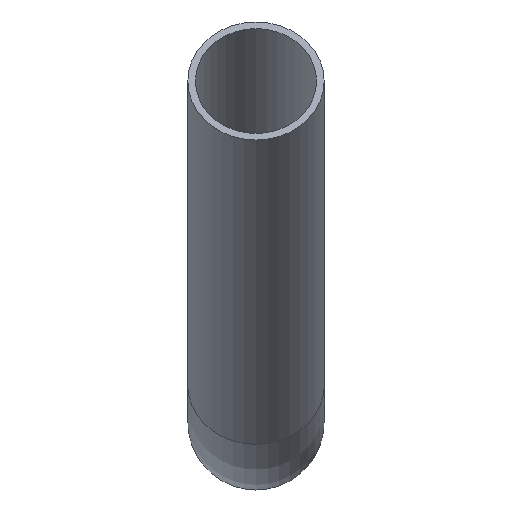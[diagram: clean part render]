
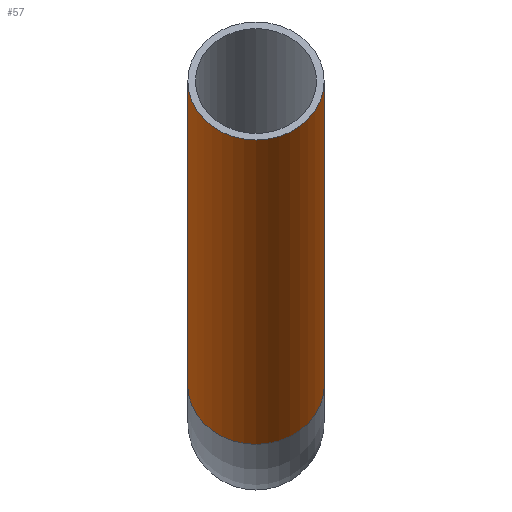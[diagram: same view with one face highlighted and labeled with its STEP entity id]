
A CAD part, front view. The second image highlights one B-rep face of the part: STEP entity #57.
In plain terms, the highlighted cylindrical face has radius 9 mm (diameter 18 mm), a full revolution.
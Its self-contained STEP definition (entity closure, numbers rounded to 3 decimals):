
#57=ADVANCED_FACE('',(#97,#99),#101,.T.);
#97=FACE_OUTER_BOUND('',#98,.T.);
#98=EDGE_LOOP('',(#141));
#99=FACE_OUTER_BOUND('',#100,.T.);
#100=EDGE_LOOP('',(#142));
#101=CYLINDRICAL_SURFACE('',#102,9.);
#102=AXIS2_PLACEMENT_3D('',#103,#104,#105);
#103=CARTESIAN_POINT('',(0.,-8.354,4.823));
#104=DIRECTION('',(0.,-0.866,0.5));
#105=DIRECTION('',(-1.,0.,0.));
#141=ORIENTED_EDGE('',*,*,#153,.T.);
#142=ORIENTED_EDGE('',*,*,#155,.F.);
#153=EDGE_CURVE('',#165,#165,#166,.T.);
#155=EDGE_CURVE('',#169,#169,#170,.T.);
#165=VERTEX_POINT('',#193);
#166=CIRCLE('',#194,9.);
#169=VERTEX_POINT('',#203);
#170=CIRCLE('',#204,9.);
#193=CARTESIAN_POINT('',(-9.,-8.354,4.823));
#194=AXIS2_PLACEMENT_3D('',#195,#196,#197);
#195=CARTESIAN_POINT('',(0.,-8.354,4.823));
#196=DIRECTION('',(0.,-0.866,0.5));
#197=DIRECTION('',(-1.,0.,0.));
#203=CARTESIAN_POINT('',(-9.,-77.942,45.));
#204=AXIS2_PLACEMENT_3D('',#205,#206,#207);
#205=CARTESIAN_POINT('',(0.,-77.942,45.));
#206=DIRECTION('',(0.,-0.866,0.5));
#207=DIRECTION('',(-1.,0.,0.));
